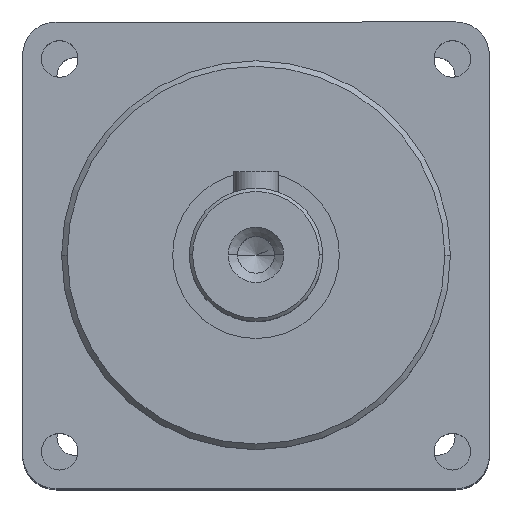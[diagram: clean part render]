
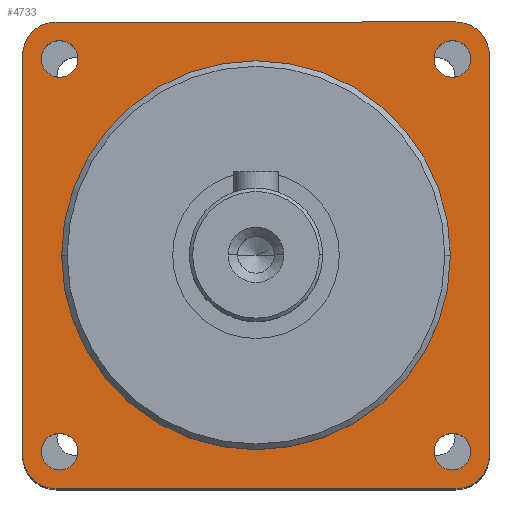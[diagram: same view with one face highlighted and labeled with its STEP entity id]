
A CAD part, top view. The second image highlights one B-rep face of the part: STEP entity #4733.
In plain terms, the highlighted planar face has unit normal (0, 0, 1).
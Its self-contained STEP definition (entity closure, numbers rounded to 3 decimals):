
#3 = EDGE_CURVE ( 'NONE', #4012, #4016, #3426, .T. ) ;
#6 = EDGE_CURVE ( 'NONE', #3988, #4019, #3432, .T. ) ;
#8 = EDGE_CURVE ( 'NONE', #4006, #4011, #3436, .T. ) ;
#14 = EDGE_CURVE ( 'NONE', #3987, #3985, #3448, .T. ) ;
#18 = EDGE_CURVE ( 'NONE', #4018, #4014, #3456, .T. ) ;
#19 = EDGE_CURVE ( 'NONE', #3995, #4009, #3457, .T. ) ;
#20 = EDGE_CURVE ( 'NONE', #4017, #4013, #3458, .T. ) ;
#21 = EDGE_CURVE ( 'NONE', #3996, #4007, #3459, .T. ) ;
#22 = EDGE_CURVE ( 'NONE', #4016, #3988, #3460, .T. ) ;
#23 = EDGE_CURVE ( 'NONE', #4019, #3987, #3461, .T. ) ;
#24 = EDGE_CURVE ( 'NONE', #3985, #4006, #3462, .T. ) ;
#25 = EDGE_CURVE ( 'NONE', #4011, #4012, #3463, .T. ) ;
#369 = EDGE_CURVE ( 'NONE', #4014, #4018, #888, .T. ) ;
#375 = EDGE_CURVE ( 'NONE', #4009, #3995, #898, .T. ) ;
#380 = EDGE_CURVE ( 'NONE', #4013, #4017, #905, .T. ) ;
#384 = EDGE_CURVE ( 'NONE', #4007, #3996, #910, .T. ) ;
#413 = AXIS2_PLACEMENT_3D ( 'NONE', #1793, #1794, #1795 ) ;
#414 = AXIS2_PLACEMENT_3D ( 'NONE', #1796, #1797, #1798 ) ;
#415 = AXIS2_PLACEMENT_3D ( 'NONE', #1799, #1800, #1801 ) ;
#416 = AXIS2_PLACEMENT_3D ( 'NONE', #1802, #1803, #1804 ) ;
#417 = AXIS2_PLACEMENT_3D ( 'NONE', #1805, #1806, #1807 ) ;
#418 = AXIS2_PLACEMENT_3D ( 'NONE', #1808, #1809, #1810 ) ;
#419 = AXIS2_PLACEMENT_3D ( 'NONE', #1811, #1812, #1813 ) ;
#420 = AXIS2_PLACEMENT_3D ( 'NONE', #1814, #1815, #1816 ) ;
#573 = AXIS2_PLACEMENT_3D ( 'NONE', #4444, #4445, #4446 ) ;
#575 = AXIS2_PLACEMENT_3D ( 'NONE', #4458, #4459, #4460 ) ;
#578 = AXIS2_PLACEMENT_3D ( 'NONE', #4471, #4472, #4473 ) ;
#581 = AXIS2_PLACEMENT_3D ( 'NONE', #4482, #4483, #4484 ) ;
#670 = AXIS2_PLACEMENT_3D ( 'NONE', #3137, #3138, #3139 ) ;
#888 = CIRCLE ( 'NONE', #573, 1.65 ) ;
#898 = CIRCLE ( 'NONE', #575, 1.65 ) ;
#905 = CIRCLE ( 'NONE', #578, 1.65 ) ;
#910 = CIRCLE ( 'NONE', #581, 1.65 ) ;
#1086 = FACE_BOUND ( 'NONE', #1367, .T. ) ;
#1087 = FACE_BOUND ( 'NONE', #1361, .T. ) ;
#1088 = FACE_BOUND ( 'NONE', #1363, .T. ) ;
#1089 = FACE_BOUND ( 'NONE', #1360, .T. ) ;
#1090 = FACE_OUTER_BOUND ( 'NONE', #1372, .T. ) ;
#1360 = EDGE_LOOP ( 'NONE', ( #3360, #3361 ) ) ;
#1361 = EDGE_LOOP ( 'NONE', ( #3356, #3357 ) ) ;
#1363 = EDGE_LOOP ( 'NONE', ( #3358, #3359 ) ) ;
#1367 = EDGE_LOOP ( 'NONE', ( #3354, #3355 ) ) ;
#1372 = EDGE_LOOP ( 'NONE', ( #3362, #3363, #3364, #3365, #3366, #3367, #3368, #3369 ) ) ;
#1763 = CARTESIAN_POINT ( 'NONE',  ( -21., -21., 71.5 ) ) ;
#1764 = DIRECTION ( 'NONE',  ( 1., 0., 0. ) ) ;
#1769 = CARTESIAN_POINT ( 'NONE',  ( 21., -21., 71.5 ) ) ;
#1770 = DIRECTION ( 'NONE',  ( 0., 1., 0. ) ) ;
#1773 = CARTESIAN_POINT ( 'NONE',  ( -21., 21., 71.5 ) ) ;
#1774 = DIRECTION ( 'NONE',  ( 0., -1., 0. ) ) ;
#1785 = CARTESIAN_POINT ( 'NONE',  ( 21., 21., 71.5 ) ) ;
#1786 = DIRECTION ( 'NONE',  ( -1., 0., 0. ) ) ;
#1793 = CARTESIAN_POINT ( 'NONE',  ( 17.678, 17.678, 71.5 ) ) ;
#1794 = DIRECTION ( 'NONE',  ( 0., 0., 1. ) ) ;
#1795 = DIRECTION ( 'NONE',  ( 0., -1., 0. ) ) ;
#1796 = CARTESIAN_POINT ( 'NONE',  ( 17.678, -17.678, 71.5 ) ) ;
#1797 = DIRECTION ( 'NONE',  ( 0., 0., 1. ) ) ;
#1798 = DIRECTION ( 'NONE',  ( -1., 0., 0. ) ) ;
#1799 = CARTESIAN_POINT ( 'NONE',  ( -17.678, -17.678, 71.5 ) ) ;
#1800 = DIRECTION ( 'NONE',  ( 0., 0., 1. ) ) ;
#1801 = DIRECTION ( 'NONE',  ( 0., 1., 0. ) ) ;
#1802 = CARTESIAN_POINT ( 'NONE',  ( -17.678, 17.678, 71.5 ) ) ;
#1803 = DIRECTION ( 'NONE',  ( 0., 0., 1. ) ) ;
#1804 = DIRECTION ( 'NONE',  ( 1., 0., 0. ) ) ;
#1805 = CARTESIAN_POINT ( 'NONE',  ( 18., -18., 71.5 ) ) ;
#1806 = DIRECTION ( 'NONE',  ( 0., 0., 1. ) ) ;
#1807 = DIRECTION ( 'NONE',  ( 1., 0., 0. ) ) ;
#1808 = CARTESIAN_POINT ( 'NONE',  ( 18., 18., 71.5 ) ) ;
#1809 = DIRECTION ( 'NONE',  ( 0., 0., 1. ) ) ;
#1810 = DIRECTION ( 'NONE',  ( 1., 0., 0. ) ) ;
#1811 = CARTESIAN_POINT ( 'NONE',  ( -18., 18., 71.5 ) ) ;
#1812 = DIRECTION ( 'NONE',  ( 0., 0., 1. ) ) ;
#1813 = DIRECTION ( 'NONE',  ( 1., 0., 0. ) ) ;
#1814 = CARTESIAN_POINT ( 'NONE',  ( -18., -18., 71.5 ) ) ;
#1815 = DIRECTION ( 'NONE',  ( 0., 0., 1. ) ) ;
#1816 = DIRECTION ( 'NONE',  ( 1., 0., 0. ) ) ;
#2170 = CARTESIAN_POINT ( 'NONE',  ( -18., 21., 71.5 ) ) ;
#2172 = CARTESIAN_POINT ( 'NONE',  ( 18., 21., 71.5 ) ) ;
#2173 = CARTESIAN_POINT ( 'NONE',  ( 21., -18., 71.5 ) ) ;
#2180 = CARTESIAN_POINT ( 'NONE',  ( 16.028, -17.678, 71.5 ) ) ;
#2181 = CARTESIAN_POINT ( 'NONE',  ( -16.028, 17.678, 71.5 ) ) ;
#2191 = CARTESIAN_POINT ( 'NONE',  ( -21., 18., 71.5 ) ) ;
#2192 = CARTESIAN_POINT ( 'NONE',  ( -19.328, 17.678, 71.5 ) ) ;
#2194 = CARTESIAN_POINT ( 'NONE',  ( 19.328, -17.678, 71.5 ) ) ;
#2196 = CARTESIAN_POINT ( 'NONE',  ( -21., -18., 71.5 ) ) ;
#2197 = CARTESIAN_POINT ( 'NONE',  ( -18., -21., 71.5 ) ) ;
#2198 = CARTESIAN_POINT ( 'NONE',  ( -17.678, -19.328, 71.5 ) ) ;
#2199 = CARTESIAN_POINT ( 'NONE',  ( 17.678, 19.328, 71.5 ) ) ;
#2201 = CARTESIAN_POINT ( 'NONE',  ( 18., -21., 71.5 ) ) ;
#2202 = CARTESIAN_POINT ( 'NONE',  ( -17.678, -16.028, 71.5 ) ) ;
#2203 = CARTESIAN_POINT ( 'NONE',  ( 17.678, 16.028, 71.5 ) ) ;
#2204 = CARTESIAN_POINT ( 'NONE',  ( 21., 18., 71.5 ) ) ;
#3136 = PLANE ( 'NONE',  #670 ) ;
#3137 = CARTESIAN_POINT ( 'NONE',  ( -21., -21., 71.5 ) ) ;
#3138 = DIRECTION ( 'NONE',  ( 0., 0., 1. ) ) ;
#3139 = DIRECTION ( 'NONE',  ( 1., 0., 0. ) ) ;
#3354 = ORIENTED_EDGE ( 'NONE', *, *, #18, .F. ) ;
#3355 = ORIENTED_EDGE ( 'NONE', *, *, #369, .F. ) ;
#3356 = ORIENTED_EDGE ( 'NONE', *, *, #19, .F. ) ;
#3357 = ORIENTED_EDGE ( 'NONE', *, *, #375, .F. ) ;
#3358 = ORIENTED_EDGE ( 'NONE', *, *, #20, .F. ) ;
#3359 = ORIENTED_EDGE ( 'NONE', *, *, #380, .F. ) ;
#3360 = ORIENTED_EDGE ( 'NONE', *, *, #21, .F. ) ;
#3361 = ORIENTED_EDGE ( 'NONE', *, *, #384, .F. ) ;
#3362 = ORIENTED_EDGE ( 'NONE', *, *, #3, .T. ) ;
#3363 = ORIENTED_EDGE ( 'NONE', *, *, #22, .T. ) ;
#3364 = ORIENTED_EDGE ( 'NONE', *, *, #6, .T. ) ;
#3365 = ORIENTED_EDGE ( 'NONE', *, *, #23, .T. ) ;
#3366 = ORIENTED_EDGE ( 'NONE', *, *, #14, .T. ) ;
#3367 = ORIENTED_EDGE ( 'NONE', *, *, #24, .T. ) ;
#3368 = ORIENTED_EDGE ( 'NONE', *, *, #8, .T. ) ;
#3369 = ORIENTED_EDGE ( 'NONE', *, *, #25, .T. ) ;
#3426 = LINE ( 'NONE', #1763, #3427 ) ;
#3427 = VECTOR ( 'NONE', #1764, 1000. ) ;
#3432 = LINE ( 'NONE', #1769, #3433 ) ;
#3433 = VECTOR ( 'NONE', #1770, 1000. ) ;
#3436 = LINE ( 'NONE', #1773, #3437 ) ;
#3437 = VECTOR ( 'NONE', #1774, 1000. ) ;
#3448 = LINE ( 'NONE', #1785, #3449 ) ;
#3449 = VECTOR ( 'NONE', #1786, 1000. ) ;
#3456 = CIRCLE ( 'NONE', #413, 1.65 ) ;
#3457 = CIRCLE ( 'NONE', #414, 1.65 ) ;
#3458 = CIRCLE ( 'NONE', #415, 1.65 ) ;
#3459 = CIRCLE ( 'NONE', #416, 1.65 ) ;
#3460 = CIRCLE ( 'NONE', #417, 3. ) ;
#3461 = CIRCLE ( 'NONE', #418, 3. ) ;
#3462 = CIRCLE ( 'NONE', #419, 3. ) ;
#3463 = CIRCLE ( 'NONE', #420, 3. ) ;
#3985 = VERTEX_POINT ( 'NONE', #2170 ) ;
#3987 = VERTEX_POINT ( 'NONE', #2172 ) ;
#3988 = VERTEX_POINT ( 'NONE', #2173 ) ;
#3995 = VERTEX_POINT ( 'NONE', #2180 ) ;
#3996 = VERTEX_POINT ( 'NONE', #2181 ) ;
#4006 = VERTEX_POINT ( 'NONE', #2191 ) ;
#4007 = VERTEX_POINT ( 'NONE', #2192 ) ;
#4009 = VERTEX_POINT ( 'NONE', #2194 ) ;
#4011 = VERTEX_POINT ( 'NONE', #2196 ) ;
#4012 = VERTEX_POINT ( 'NONE', #2197 ) ;
#4013 = VERTEX_POINT ( 'NONE', #2198 ) ;
#4014 = VERTEX_POINT ( 'NONE', #2199 ) ;
#4016 = VERTEX_POINT ( 'NONE', #2201 ) ;
#4017 = VERTEX_POINT ( 'NONE', #2202 ) ;
#4018 = VERTEX_POINT ( 'NONE', #2203 ) ;
#4019 = VERTEX_POINT ( 'NONE', #2204 ) ;
#4444 = CARTESIAN_POINT ( 'NONE',  ( 17.678, 17.678, 71.5 ) ) ;
#4445 = DIRECTION ( 'NONE',  ( 0., 0., 1. ) ) ;
#4446 = DIRECTION ( 'NONE',  ( 0., -1., 0. ) ) ;
#4458 = CARTESIAN_POINT ( 'NONE',  ( 17.678, -17.678, 71.5 ) ) ;
#4459 = DIRECTION ( 'NONE',  ( 0., 0., 1. ) ) ;
#4460 = DIRECTION ( 'NONE',  ( -1., 0., 0. ) ) ;
#4471 = CARTESIAN_POINT ( 'NONE',  ( -17.678, -17.678, 71.5 ) ) ;
#4472 = DIRECTION ( 'NONE',  ( 0., 0., 1. ) ) ;
#4473 = DIRECTION ( 'NONE',  ( 0., 1., 0. ) ) ;
#4482 = CARTESIAN_POINT ( 'NONE',  ( -17.678, 17.678, 71.5 ) ) ;
#4483 = DIRECTION ( 'NONE',  ( 0., 0., 1. ) ) ;
#4484 = DIRECTION ( 'NONE',  ( 1., 0., 0. ) ) ;
#4733 = ADVANCED_FACE ( 'NONE', ( #1086, #1087, #1088, #1089, #1090 ), #3136, .T. ) ;
